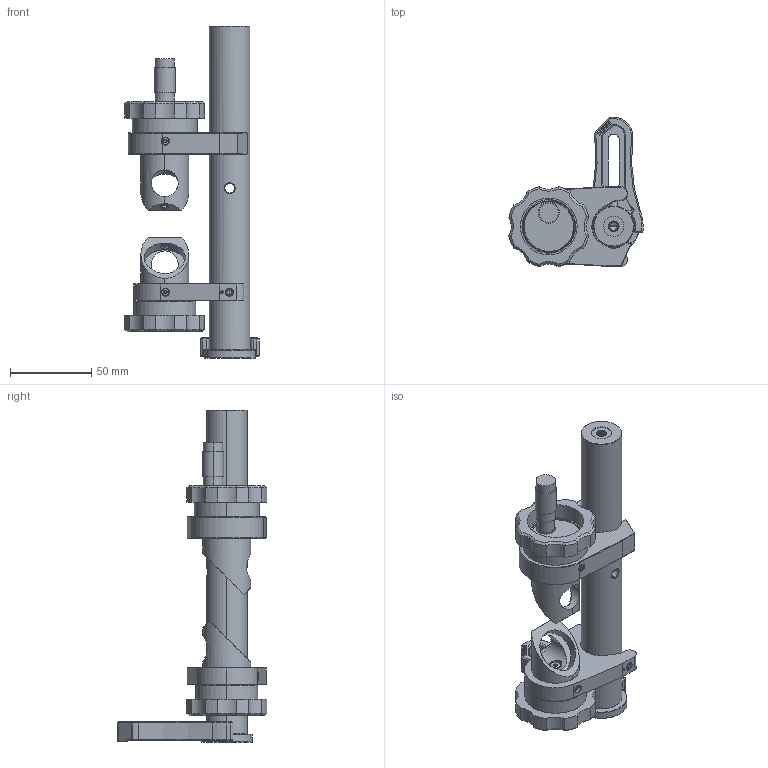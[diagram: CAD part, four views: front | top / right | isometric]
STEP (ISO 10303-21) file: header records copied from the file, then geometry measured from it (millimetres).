
FILE_DESCRIPTION((''),'2;1');
FILE_NAME('FRM1-CFJP200_ASM','2023-07-03T11:15:10',('R&D'),(''),'CREO PARAMETRIC BY PTC INC, 2021063','CREO PARAMETRIC BY PTC INC, 2021063','');
FILE_SCHEMA(('CONFIG_CONTROL_DESIGN'));
Length unit declared in the file: millimetre
Products named in the file (35): FRM1-X2-5; FRM1-X3-5; FRM1-X5; FRM1-X2-7; FRM1-X2-8; FRM1-X4; FRM1-X2-10; FRM1-X2; FRM1-X2-15; FRM1-X3; FRM1-X2-45; FRM1-X2-25; FRM1-X2-11; FRM1-X2-14; ISO7380-1-M4X12-8_8; FRM1-X2-17; FRM1-X2-16_ASM; FRM1-X1_ASM; FRM1-A-21; FRM1-A-22; FRM1-A-23; FRM1-A-6; FRM1-A-24; FRM1-A-25; FRM1-A-9; FRM1-A-10; FRM1-A-3; FRM1-A-26; FRM1-A-1_ASM; FRM1-A-01_ASM; CFJP150-S; PCA31-S; M-BASE-C; CFJP200-S; FRM1-CFJP200_ASM
Assembly tree (35 placements, depth 4):
  FRM1-CFJP200_ASM
    FRM1-X1_ASM
      FRM1-X2-5
      FRM1-X3-5
      FRM1-X5
      FRM1-X2-7
      FRM1-X2-8
      FRM1-X4
      FRM1-X2-10
      FRM1-X2
      FRM1-X2-15
      FRM1-X3
      FRM1-X2-45
      FRM1-X2-25
      FRM1-X2-11  x2
      FRM1-X2-14
      ISO7380-1-M4X12-8_8
      FRM1-X2-16_ASM
        FRM1-X2-17
    FRM1-A-01_ASM
      FRM1-A-1_ASM
        FRM1-A-21
        FRM1-A-22
        FRM1-A-23
        FRM1-A-6
        FRM1-A-24
        FRM1-A-25
        FRM1-A-9
        FRM1-A-10
        FRM1-A-3
        FRM1-A-26
    CFJP150-S
    PCA31-S
    M-BASE-C
    CFJP200-S
Bounding box: 82.81 x 92.16 x 204.7 mm (x, y, z)
Volume: 234760.3 mm3; surface area: 78371.9 mm2
Topology: 25 solids, 38 shells, 1218 faces, 2988 edges, 1879 vertices
Faces by surface type: plane 541, cylinder 381, cone 215, bspline 67, sphere 8, torus 6
Entity records: 54244 total; most frequent: CARTESIAN_POINT 25493, ORIENTED_EDGE 5822, DIRECTION 5726, EDGE_CURVE 2938, AXIS2_PLACEMENT_3D 2041, VERTEX_POINT 1873, VECTOR 1644, LINE 1644
